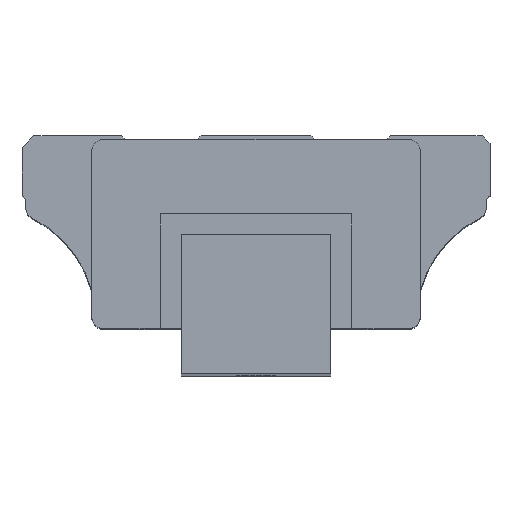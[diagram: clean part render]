
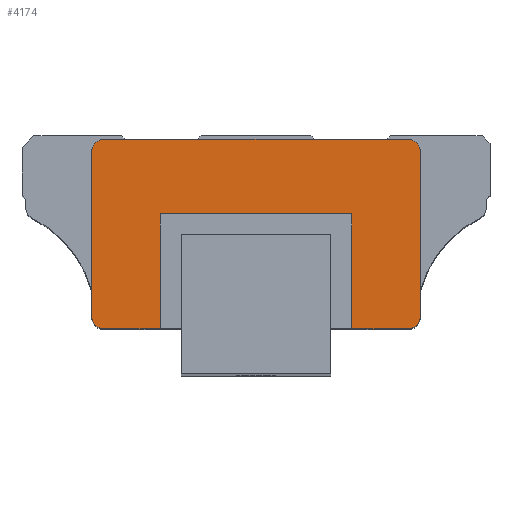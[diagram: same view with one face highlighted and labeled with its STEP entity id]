
A CAD part, top view. The second image highlights one B-rep face of the part: STEP entity #4174.
In plain terms, the highlighted planar face has unit normal (0, 0, 1).
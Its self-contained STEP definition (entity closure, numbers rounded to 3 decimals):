
#3648=CARTESIAN_POINT('',(17.12,4.6,108.4));
#3649=VERTEX_POINT('',#3648);
#3650=CARTESIAN_POINT('',(17.12,16.12,108.4));
#3651=VERTEX_POINT('',#3650);
#3652=CARTESIAN_POINT('',(17.12,4.6,108.4));
#3653=DIRECTION('',(0.0,1.0,0.0));
#3654=VECTOR('',#3653,1.0);
#3655=LINE('',#3652,#3654);
#3656=EDGE_CURVE('',#3649,#3651,#3655,.T.);
#3688=CARTESIAN_POINT('',(-2.12,16.12,108.4));
#3689=VERTEX_POINT('',#3688);
#3690=CARTESIAN_POINT('',(17.12,16.12,108.4));
#3691=DIRECTION('',(-1.0,0.0,0.0));
#3692=VECTOR('',#3691,1.0);
#3693=LINE('',#3690,#3692);
#3694=EDGE_CURVE('',#3651,#3689,#3693,.T.);
#3719=CARTESIAN_POINT('',(-2.12,4.6,108.4));
#3720=VERTEX_POINT('',#3719);
#3721=CARTESIAN_POINT('',(-2.12,16.12,108.4));
#3722=DIRECTION('',(0.0,-1.0,0.0));
#3723=VECTOR('',#3722,1.);
#3724=LINE('',#3721,#3723);
#3725=EDGE_CURVE('',#3689,#3720,#3724,.T.);
#3878=CARTESIAN_POINT('',(22.8,23.6,108.4));
#3879=VERTEX_POINT('',#3878);
#3880=CARTESIAN_POINT('',(24.0,22.4,108.4));
#3881=VERTEX_POINT('',#3880);
#3882=CARTESIAN_POINT('',(22.8,22.4,108.4));
#3883=DIRECTION('',(0.,0.,-1.0));
#3884=DIRECTION('',(0.,1.0,0.));
#3885=AXIS2_PLACEMENT_3D('',#3882,#3883,#3884);
#3886=CIRCLE('',#3885,1.2);
#3887=EDGE_CURVE('',#3879,#3881,#3886,.T.);
#3920=CARTESIAN_POINT('',(24.0,5.8,108.4));
#3921=VERTEX_POINT('',#3920);
#3922=CARTESIAN_POINT('',(24.0,22.4,108.4));
#3923=DIRECTION('',(0.0,-1.0,0.0));
#3924=VECTOR('',#3923,1.0);
#3925=LINE('',#3922,#3924);
#3926=EDGE_CURVE('',#3881,#3921,#3925,.T.);
#3951=CARTESIAN_POINT('',(22.8,4.6,108.4));
#3952=VERTEX_POINT('',#3951);
#3953=CARTESIAN_POINT('',(22.8,5.8,108.4));
#3954=DIRECTION('',(0.0,0.0,-1.0));
#3955=DIRECTION('',(1.0,0.0,0.0));
#3956=AXIS2_PLACEMENT_3D('',#3953,#3954,#3955);
#3957=CIRCLE('',#3956,1.2);
#3958=EDGE_CURVE('',#3921,#3952,#3957,.T.);
#3984=CARTESIAN_POINT('',(22.8,4.6,108.4));
#3985=DIRECTION('',(-1.0,0.0,0.0));
#3986=VECTOR('',#3985,1.0);
#3987=LINE('',#3984,#3986);
#3988=EDGE_CURVE('',#3952,#3649,#3987,.T.);
#4008=CARTESIAN_POINT('',(-7.8,4.6,108.4));
#4009=VERTEX_POINT('',#4008);
#4010=CARTESIAN_POINT('',(-2.12,4.6,108.4));
#4011=DIRECTION('',(-1.0,0.0,0.0));
#4012=VECTOR('',#4011,1.0);
#4013=LINE('',#4010,#4012);
#4014=EDGE_CURVE('',#3720,#4009,#4013,.T.);
#4041=CARTESIAN_POINT('',(-9.0,5.8,108.4));
#4042=VERTEX_POINT('',#4041);
#4043=CARTESIAN_POINT('',(-7.8,5.8,108.4));
#4044=DIRECTION('',(0.0,0.0,-1.0));
#4045=DIRECTION('',(0.0,-1.0,0.0));
#4046=AXIS2_PLACEMENT_3D('',#4043,#4044,#4045);
#4047=CIRCLE('',#4046,1.2);
#4048=EDGE_CURVE('',#4009,#4042,#4047,.T.);
#4074=CARTESIAN_POINT('',(-9.0,22.4,108.4));
#4075=VERTEX_POINT('',#4074);
#4076=CARTESIAN_POINT('',(-9.0,5.8,108.4));
#4077=DIRECTION('',(0.0,1.0,0.0));
#4078=VECTOR('',#4077,1.0);
#4079=LINE('',#4076,#4078);
#4080=EDGE_CURVE('',#4042,#4075,#4079,.T.);
#4105=CARTESIAN_POINT('',(-7.8,23.6,108.4));
#4106=VERTEX_POINT('',#4105);
#4107=CARTESIAN_POINT('',(-7.8,22.4,108.4));
#4108=DIRECTION('',(0.0,0.0,-1.0));
#4109=DIRECTION('',(-1.0,0.,0.0));
#4110=AXIS2_PLACEMENT_3D('',#4107,#4108,#4109);
#4111=CIRCLE('',#4110,1.2);
#4112=EDGE_CURVE('',#4075,#4106,#4111,.T.);
#4138=CARTESIAN_POINT('',(-7.8,23.6,108.4));
#4139=DIRECTION('',(1.0,0.0,0.0));
#4140=VECTOR('',#4139,1.0);
#4141=LINE('',#4138,#4140);
#4142=EDGE_CURVE('',#4106,#3879,#4141,.T.);
#4155=CARTESIAN_POINT('',(-10.65,3.65,108.4));
#4156=DIRECTION('',(0.0,0.0,1.0));
#4157=DIRECTION('',(1.0,0.0,0.0));
#4158=AXIS2_PLACEMENT_3D('',#4155,#4156,#4157);
#4159=PLANE('',#4158);
#4160=ORIENTED_EDGE('',*,*,#3887,.F.);
#4161=ORIENTED_EDGE('',*,*,#4142,.F.);
#4162=ORIENTED_EDGE('',*,*,#4112,.F.);
#4163=ORIENTED_EDGE('',*,*,#4080,.F.);
#4164=ORIENTED_EDGE('',*,*,#4048,.F.);
#4165=ORIENTED_EDGE('',*,*,#4014,.F.);
#4166=ORIENTED_EDGE('',*,*,#3725,.F.);
#4167=ORIENTED_EDGE('',*,*,#3694,.F.);
#4168=ORIENTED_EDGE('',*,*,#3656,.F.);
#4169=ORIENTED_EDGE('',*,*,#3988,.F.);
#4170=ORIENTED_EDGE('',*,*,#3958,.F.);
#4171=ORIENTED_EDGE('',*,*,#3926,.F.);
#4172=EDGE_LOOP('',(#4160,#4161,#4162,#4163,#4164,#4165,#4166,#4167,#4168,#4169,#4170,#4171));
#4173=FACE_OUTER_BOUND('',#4172,.T.);
#4174=ADVANCED_FACE('',(#4173),#4159,.T.);
